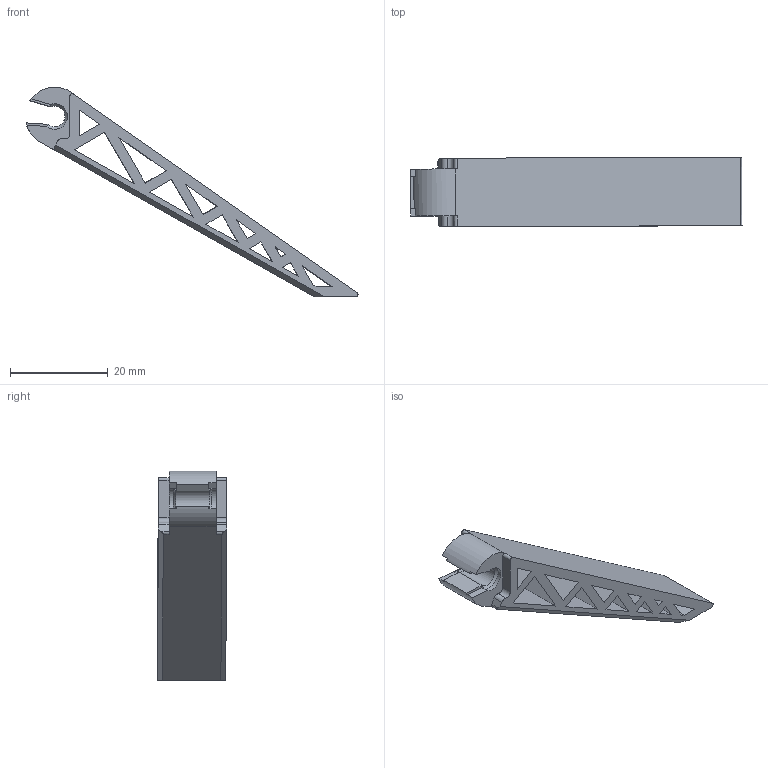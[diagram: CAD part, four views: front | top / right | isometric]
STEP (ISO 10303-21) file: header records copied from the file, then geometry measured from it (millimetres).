
FILE_DESCRIPTION(/* description */ (''),/* implementation_level */ '2;1');
FILE_NAME(/* name */ 'C:/Users/arthu/Desktop/3D/Porte portap/step_files/Tripod stand.step',/* time_stamp */ '2021-01-11T17:19:12+01:00',/* author */ (''),/* organization */ (''),/* preprocessor_version */ 'ST-DEVELOPER v18.1',/* originating_system */ 'Autodesk Translation Framework v9.7.1.1290',/* authorisation */ '');
FILE_SCHEMA (('AUTOMOTIVE_DESIGN { 1 0 10303 214 3 1 1 }'));
Length unit declared in the file: millimetre
Products named in the file (1): Tripod stand
Bounding box: 67.94 x 14.27 x 42.86 mm (x, y, z)
Volume: 6230.6 mm3; surface area: 5952 mm2
Topology: 1 solids, 1 shells, 79 faces, 223 edges, 146 vertices
Faces by surface type: plane 61, cylinder 16, cone 2
Entity records: 2609 total; most frequent: CARTESIAN_POINT 457, ORIENTED_EDGE 446, DIRECTION 415, EDGE_CURVE 223, LINE 183, VECTOR 183, VERTEX_POINT 146, AXIS2_PLACEMENT_3D 116
